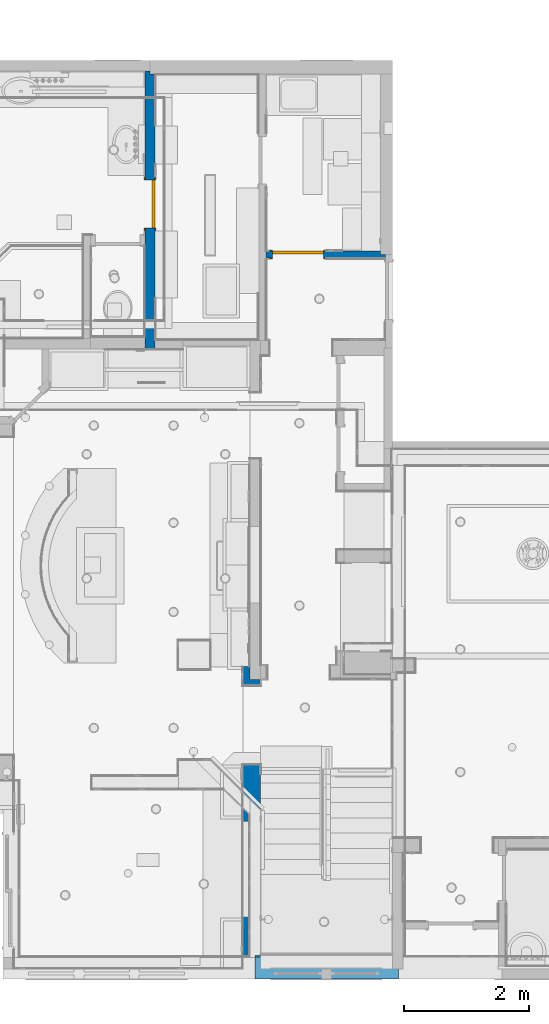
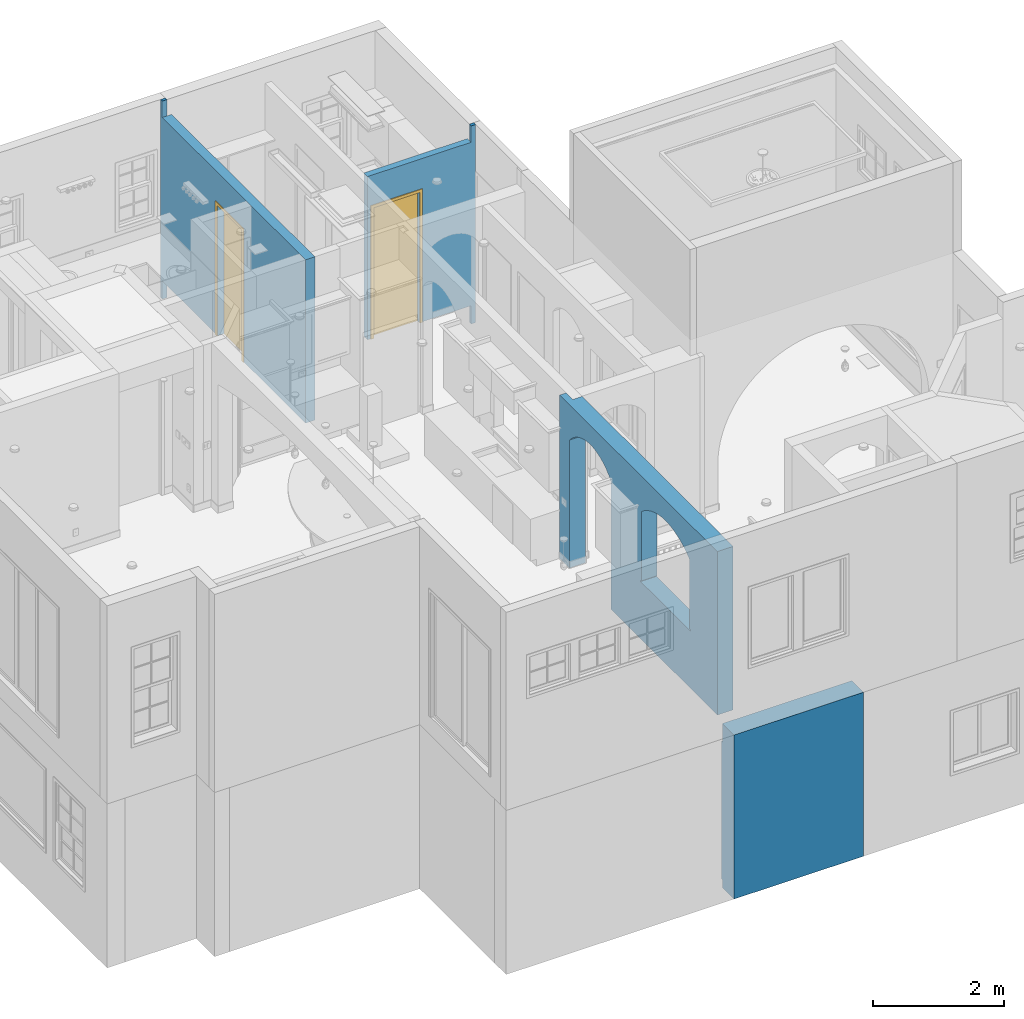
# One storey, part 30 of 81: 4 walls, 2 doors, 2 openings.
"""IFC2X3 building model written with IfcOpenShell, lengths in feet."""

from ifc_helpers import new_model, entity, si_unit, converted_unit, derived_unit, direction, frame, frame_2d, origin, origin_2d_with_axis, place, context, subcontext, project, spatial, polyline, rectangle, outline, extrude, faceted_brep, source, transform, mapped, material, material_list, layer, layer_set, type_object, type_shapes, element, fill, save


model = new_model("IFC2X3")

# Units and contexts
model_context = context("Model", 3, precision=0.0001, world=origin(), true_north=direction((6.12303176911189e-17, 1.0)))
body_context = subcontext(model_context, "Body", "Model", "MODEL_VIEW")
ifc_project = project(units=[converted_unit("LENGTHUNIT", "FOOT", entity("IfcRatioMeasure", 0.3048), si_unit("LENGTHUNIT", "METRE"), dimensions=[1, 0, 0, 0, 0, 0, 0]), converted_unit("AREAUNIT", "SQUARE FOOT", entity("IfcRatioMeasure", 0.09290304), si_unit("AREAUNIT", "SQUARE_METRE"), dimensions=[2, 0, 0, 0, 0, 0, 0]), converted_unit("VOLUMEUNIT", "CUBIC FOOT", entity("IfcRatioMeasure", 0.028316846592), si_unit("VOLUMEUNIT", "CUBIC_METRE"), dimensions=[3, 0, 0, 0, 0, 0, 0]), converted_unit("PLANEANGLEUNIT", "DEGREE", entity("IfcRatioMeasure", 0.0174532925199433), si_unit("PLANEANGLEUNIT", "RADIAN"), dimensions=[0, 0, 0, 0, 0, 0, 0]), si_unit("MASSUNIT", "GRAM", prefix="KILO"), derived_unit("MASSDENSITYUNIT", [(si_unit("MASSUNIT", "GRAM", prefix="KILO"), 1), (si_unit("LENGTHUNIT", "METRE"), -3)]), derived_unit("MOMENTOFINERTIAUNIT", [(si_unit("LENGTHUNIT", "METRE"), 4)]), si_unit("TIMEUNIT", "SECOND"), si_unit("FREQUENCYUNIT", "HERTZ"), si_unit("THERMODYNAMICTEMPERATUREUNIT", "DEGREE_CELSIUS"), derived_unit("THERMALTRANSMITTANCEUNIT", [(si_unit("MASSUNIT", "GRAM", prefix="KILO"), 1), (si_unit("THERMODYNAMICTEMPERATUREUNIT", "KELVIN"), -1), (si_unit("TIMEUNIT", "SECOND"), -3)]), derived_unit("VOLUMETRICFLOWRATEUNIT", [(si_unit("LENGTHUNIT", "METRE"), 3), (si_unit("TIMEUNIT", "SECOND"), -1)]), si_unit("ELECTRICCURRENTUNIT", "AMPERE"), si_unit("ELECTRICVOLTAGEUNIT", "VOLT"), si_unit("POWERUNIT", "WATT"), si_unit("FORCEUNIT", "NEWTON"), si_unit("ILLUMINANCEUNIT", "LUX"), si_unit("LUMINOUSFLUXUNIT", "LUMEN"), si_unit("LUMINOUSINTENSITYUNIT", "CANDELA"), derived_unit("USERDEFINED", [(si_unit("MASSUNIT", "GRAM", prefix="KILO"), -1), (si_unit("LENGTHUNIT", "METRE"), -2), (si_unit("TIMEUNIT", "SECOND"), 3), (si_unit("LUMINOUSFLUXUNIT", "LUMEN"), 1)]), derived_unit("LINEARVELOCITYUNIT", [(si_unit("LENGTHUNIT", "METRE"), 1), (si_unit("TIMEUNIT", "SECOND"), -1)]), si_unit("PRESSUREUNIT", "PASCAL"), derived_unit("USERDEFINED", [(si_unit("LENGTHUNIT", "METRE"), -2), (si_unit("MASSUNIT", "GRAM", prefix="KILO"), 1), (si_unit("TIMEUNIT", "SECOND"), -2)]), derived_unit("LINEARFORCEUNIT", [(si_unit("MASSUNIT", "GRAM", prefix="KILO"), 1), (si_unit("LENGTHUNIT", "METRE"), 1), (si_unit("TIMEUNIT", "SECOND"), -2), (si_unit("LENGTHUNIT", "METRE"), -1)]), derived_unit("PLANARFORCEUNIT", [(si_unit("MASSUNIT", "GRAM", prefix="KILO"), 1), (si_unit("LENGTHUNIT", "METRE"), 1), (si_unit("TIMEUNIT", "SECOND"), -2), (si_unit("LENGTHUNIT", "METRE"), -2)])], contexts=[model_context])

# Site, building, storey
site_placement = place(None, origin())
site = spatial("IfcSite", under=ifc_project, at=site_placement, Name="Default", CompositionType="ELEMENT")
building_placement = place(site_placement, origin())
building = spatial("IfcBuilding", under=site, at=building_placement, CompositionType="ELEMENT")
storey_placement = place(building_placement, origin())
storey = spatial("IfcBuildingStorey", under=building, at=storey_placement, Name="First floor", CompositionType="ELEMENT", Elevation=0.0)

# Wall, opening, door
ifc_material = material(Name="Default New Material")
ifc_layer_1 = layer(ifc_material, 0.541666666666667)
ifc_layer_set_1 = layer_set([ifc_layer_1], Name="Basic Wall:Wall_6.5\"")
wall_type_1 = type_object("IfcWallType", Name="Basic Wall:Wall_6.5\"", PredefinedType="STANDARD", material=ifc_layer_set_1)
wall_1_placement = place(storey_placement, frame((7.68749999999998, 32.9583333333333, 9.54166666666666), z_axis=(0.0, 0.0, 1.0), x_axis=(0.0, 1.0, 0.0)))
wall_1 = element("IfcWall", 1, at=wall_1_placement, inside=storey, type_object=wall_type_1, Name="Basic Wall:Wall_6.5\"", ObjectType="Basic Wall:Wall_6.5\"", context=body_context, shape_type="Brep", body=[
    faceted_brep([(6.3329881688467, -0.270833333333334, 1.125), (6.3329881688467, -0.270833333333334, 9.125), (8.8329881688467, -0.270833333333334, 9.125), (8.8329881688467, -0.270833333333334, 1.125), (14.3746548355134, -0.270833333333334, 1.125), (14.3746548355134, -0.270833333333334, 11.125), (0.458333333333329, -0.270833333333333, 11.125), (0.0, -0.270833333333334, 11.125), (0.0, -0.270833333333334, 1.125), (0.458333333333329, -0.270833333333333, 1.125), (6.3329881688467, 0.270833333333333, 9.125), (6.3329881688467, 0.270833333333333, 1.125), (5.95798816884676, 0.270833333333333, 1.125), (5.4163215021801, 0.270833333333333, 1.125), (0.625, 0.270833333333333, 1.125), (0.0, 0.270833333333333, 1.125), (0.0, 0.270833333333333, 11.125), (0.625, 0.270833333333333, 11.125), (5.4163215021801, 0.270833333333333, 11.125), (5.95798816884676, 0.270833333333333, 11.125), (14.3746548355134, 0.270833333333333, 11.125), (14.3746548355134, 0.270833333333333, 12.125), (14.54132150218, 0.270833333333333, 12.125), (14.54132150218, 0.270833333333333, 11.125), (14.54132150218, 0.270833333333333, 1.125), (14.54132150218, 0.270833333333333, 0.0), (14.3746548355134, 0.270833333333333, 0.0), (14.3746548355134, 0.270833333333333, 1.125), (8.8329881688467, 0.270833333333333, 1.125), (8.8329881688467, 0.270833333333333, 9.125), (14.54132150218, 0.0, 0.0), (14.3746548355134, 0.0, 0.0), (14.54132150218, 0.0, 12.125), (14.3746548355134, 0.0, 12.125), (14.3746548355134, 0.0, 11.125), (14.3746548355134, 0.0, 1.125)], [[[0, 1, 2, 3, 4, 5, 6, 7, 8, 9]], [[10, 11, 12, 13, 14, 15, 16, 17, 18, 19, 20, 21, 22, 23, 24, 25, 26, 27, 28, 29]], [[25, 30, 31, 26]], [[32, 22, 21, 33]], [[7, 16, 15, 8]], [[34, 5, 4, 35]], [[31, 30, 32, 33, 34, 35]], [[30, 25, 24, 23, 22, 32]], [[1, 0, 11, 10]], [[2, 1, 10, 29]], [[3, 2, 29, 28]], [[34, 20, 19, 18, 17, 16, 7, 6, 5]], [[20, 34, 33, 21]], [[27, 35, 4, 3, 28]], [[35, 27, 26, 31]], [[0, 9, 8, 15, 14, 13, 12, 11]]]),
])
opening_1_placement = place(wall_1_placement, frame((8.8329881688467, 0.270833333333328, 1.125)))
opening_1 = element("IfcOpeningElement", 2, at=opening_1_placement, cuts=wall_1, Name="Door_1:2'-6\" X 8'-0\":1", ObjectType="Opening", context=body_context, shape_type="SweptSolid", body=[
    extrude(rectangle(XDim=2.5, YDim=8.0, at=frame_2d((4.0, 1.25), x_axis=(0.0, 1.0))), frame((0.0, 0.0, 0.0), z_axis=(0.0, -1.0, 0.0), x_axis=(0.0, 0.0, 1.0)), (0.0, 0.0, 1.0), 0.541666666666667),
])
ifc_material_list_1 = material_list([ifc_material, ifc_material])
door_style_1 = type_object("IfcDoorStyle", Name="Door_1:2'-6\" X 8'-0\"", ConstructionType="NOTDEFINED", OperationType="SINGLE_SWING_RIGHT", ParameterTakesPrecedence=False, Sizeable=False, material=ifc_material_list_1)
shared_shape_1 = source(origin(), body_context, "Body", "SweptSolid", [
    extrude(outline(polyline([(-1.41666666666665, -4.125), (1.41666666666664, -4.125), (1.41666666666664, 4.04166666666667), (1.25000000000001, 4.04166666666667), (1.25000000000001, -3.95833333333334), (-1.24999999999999, -3.95833333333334), (-1.24999999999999, 4.04166666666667), (-1.41666666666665, 4.04166666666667), (-1.41666666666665, -4.125)])), frame((1.24999999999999, 0.541666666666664, 4.04166666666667), z_axis=(0.0, 1.0, 0.0), x_axis=(1.0, 0.0, 0.0)), (0.0, 0.0, 1.0), 0.0416666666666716),
    extrude(outline(polyline([(-4.125, -1.41666666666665), (4.04166666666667, -1.41666666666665), (4.04166666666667, -1.24999999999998), (-3.95833333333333, -1.24999999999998), (-3.95833333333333, 1.24999999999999), (4.04166666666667, 1.24999999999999), (4.04166666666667, 1.41666666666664), (-4.125, 1.41666666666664), (-4.125, -1.41666666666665)])), frame((1.24999999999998, -0.0416666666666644, 4.04166666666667), z_axis=(0.0, 1.0, 0.0), x_axis=(0.0, 0.0, -1.0)), (0.0, 0.0, 1.0), 0.0416666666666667),
    extrude(rectangle(XDim=0.166666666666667, YDim=2.5, at=origin_2d_with_axis()), frame((1.25, 0.458333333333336, 0.0), z_axis=(0.0, 0.0, 1.0), x_axis=(0.0, 1.0, 0.0)), (0.0, 0.0, 1.0), 8.0),
])
type_shapes(door_style_1, [shared_shape_1])
door_1_placement = place(opening_1_placement, frame((0.0, 0.0, 0.0), z_axis=(0.0, 0.0, 1.0), x_axis=(-1.0, 0.0, 0.0)))
door_1 = element("IfcDoor", 3, at=door_1_placement, inside=storey, type_object=door_style_1, material=ifc_material, Name="Door_1:2'-6\" X 8'-0\"", ObjectType="Door_1:2'-6\" X 8'-0\"", OverallHeight=8.0, OverallWidth=2.5, context=body_context, shape_type="MappedRepresentation", body=[
    mapped(shared_shape_1, transform((0.0, 0.0, 0.0), scale=1.0)),
])
fill(opening_1, door_1)

ifc_layer_2 = layer(ifc_material, 0.375)
ifc_layer_set_2 = layer_set([ifc_layer_2], Name="Basic Wall:Wall_4.5\"")
wall_type_2 = type_object("IfcWallType", Name="Basic Wall:Wall_4.5\"", PredefinedType="STANDARD", material=ifc_layer_set_2)
wall_2_placement = place(storey_placement, frame((20.0, 37.8954881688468, 9.54166666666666), z_axis=(0.0, 0.0, 1.0), x_axis=(-1.0, 0.0, 0.0)))
wall_2 = element("IfcWall", 4, at=wall_2_placement, inside=storey, type_object=wall_type_2, Name="Basic Wall:Wall_4.5\"", ObjectType="Basic Wall:Wall_4.5\"", context=body_context, shape_type="Brep", body=[
    faceted_brep([(5.91666666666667, -0.1875, 9.125), (5.91666666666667, -0.1875, 1.125), (6.20833333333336, -0.1875, 1.125), (6.25000000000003, -0.1875, 1.125), (6.25000000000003, -0.1875, 1.54166666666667), (6.25000000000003, -0.1875, 11.125), (0.250000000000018, -0.1875, 11.125), (0.250000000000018, -0.1875, 1.125), (3.25, -0.1875, 1.125), (3.25, -0.1875, 9.125), (5.91666666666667, 0.1875, 1.125), (5.91666666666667, 0.1875, 9.125), (3.25, 0.1875, 9.125), (3.25, 0.1875, 1.125), (0.250000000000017, 0.1875, 1.125), (0.250000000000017, 0.1875, 0.0), (0.0, 0.1875, 0.0), (0.0, 0.1875, 1.125), (0.0, 0.1875, 11.125), (0.0, 0.1875, 12.125), (0.250000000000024, 0.1875, 12.125), (0.250000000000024, 0.1875, 11.125), (6.25000000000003, 0.1875, 11.125), (6.25000000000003, 0.1875, 1.125), (0.250000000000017, 0.0, 0.0), (0.0, 0.0, 0.0), (0.0, 0.0, 12.125), (0.250000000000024, 0.0, 12.125), (0.250000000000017, 0.0, 11.125), (0.250000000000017, 0.0, 1.125)], [[[0, 1, 2, 3, 4, 5, 6, 7, 8, 9]], [[10, 11, 12, 13, 14, 15, 16, 17, 18, 19, 20, 21, 22, 23]], [[24, 25, 16, 15]], [[19, 26, 27, 20]], [[6, 28, 29, 7]], [[27, 26, 25, 24, 29, 28]], [[26, 19, 18, 17, 16, 25]], [[11, 10, 1, 0]], [[12, 11, 0, 9]], [[13, 12, 9, 8]], [[22, 5, 4, 3, 23]], [[21, 28, 6, 5, 22]], [[28, 21, 20, 27]], [[3, 2, 1, 10, 23]], [[14, 29, 24, 15]], [[29, 14, 13, 8, 7]]]),
])
opening_2_placement = place(wall_2_placement, frame((5.91666666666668, 0.187499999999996, 1.125)))
opening_2 = element("IfcOpeningElement", 5, at=opening_2_placement, cuts=wall_2, Name="Door_1:2'-8\" X 8'-0\":1", ObjectType="Opening", context=body_context, shape_type="SweptSolid", body=[
    extrude(rectangle(XDim=2.66666666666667, YDim=8.0, at=frame_2d((4.0, 1.33333333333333), x_axis=(0.0, -1.0))), frame((0.0, 0.0, 0.0), z_axis=(0.0, -1.0, 0.0), x_axis=(0.0, 0.0, 1.0)), (0.0, 0.0, 1.0), 0.375),
])
ifc_material_list_2 = material_list([ifc_material, ifc_material])
door_style_2 = type_object("IfcDoorStyle", Name="Door_1:2'-8\" X 8'-0\"", ConstructionType="NOTDEFINED", OperationType="SINGLE_SWING_LEFT", ParameterTakesPrecedence=False, Sizeable=False, material=ifc_material_list_2)
shared_shape_2 = source(origin(), body_context, "Body", "SweptSolid", [
    extrude(outline(polyline([(-1.49999999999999, -4.125), (1.49999999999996, -4.125), (1.50000000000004, 4.04166666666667), (1.33333333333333, 4.04166666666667), (1.33333333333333, -3.95833333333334), (-1.33333333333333, -3.95833333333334), (-1.33333333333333, 4.04166666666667), (-1.49999999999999, 4.04166666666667), (-1.49999999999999, -4.125)])), frame((1.33333333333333, 0.416666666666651, 4.04166666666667), z_axis=(0.0, -1.0, 0.0), x_axis=(-1.0, 0.0, 0.0)), (0.0, 0.0, 1.0), 0.0416666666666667),
    extrude(outline(polyline([(-4.125, -1.49999999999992), (4.04166666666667, -1.49999999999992), (4.04166666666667, -1.33333333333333), (-3.95833333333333, -1.33333333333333), (-3.95833333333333, 1.3333333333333), (4.04166666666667, 1.3333333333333), (4.04166666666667, 1.49999999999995), (-4.125, 1.49999999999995), (-4.125, -1.49999999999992)])), frame((1.33333333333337, 0.0, 4.04166666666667), z_axis=(0.0, -1.0, 0.0), x_axis=(0.0, 0.0, -1.0)), (0.0, 0.0, 1.0), 0.0416666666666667),
    extrude(rectangle(XDim=2.66666666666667, YDim=0.166666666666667, at=origin_2d_with_axis()), frame((1.33333333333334, 0.291666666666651, 0.0)), (0.0, 0.0, 1.0), 8.0),
])
type_shapes(door_style_2, [shared_shape_2])
door_2_placement = place(opening_2_placement, frame((0.0, 0.0, 0.0), z_axis=(0.0, 0.0, 1.0), x_axis=(-1.0, 0.0, 0.0)))
door_2 = element("IfcDoor", 6, at=door_2_placement, inside=storey, type_object=door_style_2, material=ifc_material, Name="Door_1:2'-8\" X 8'-0\"", ObjectType="Door_1:2'-8\" X 8'-0\"", OverallHeight=8.0, OverallWidth=2.66666666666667, context=body_context, shape_type="MappedRepresentation", body=[
    mapped(shared_shape_2, transform((0.0, 0.0, 0.0), scale=1.0)),
])
fill(opening_2, door_2)

# Walls
ifc_layer_3 = layer(ifc_material, 0.916666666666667)
ifc_layer_set_3 = layer_set([ifc_layer_3], Name="Basic Wall:Wall_11\"")
wall_type_3 = type_object("IfcWallType", Name="Basic Wall:Wall_11\"", PredefinedType="STANDARD", material=ifc_layer_set_3)
wall_3_placement = place(storey_placement, frame((13.0, 16.3538215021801, 10.6666666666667), z_axis=(0.0, 0.0, 1.0), x_axis=(0.0, -1.0, 0.0)))
element("IfcWall", 7, at=wall_3_placement, inside=storey, type_object=wall_type_3, Name="Basic Wall:Wall_11\"", ObjectType="Basic Wall:Wall_11\"", context=body_context, shape_type="Brep", body=[
    faceted_brep([(8.18715483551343, -0.458333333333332, 3.58333333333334), (8.1038215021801, -0.458333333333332, 3.58333333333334), (8.10382150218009, 0.458333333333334, 3.58333333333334), (8.18715483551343, 0.458333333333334, 3.58333333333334), (13.0204881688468, -0.458333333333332, 3.58333333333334), (13.0204881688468, 0.458333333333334, 3.58333333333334), (13.1038215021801, 0.458333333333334, 3.58333333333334), (13.1038215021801, -0.458333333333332, 3.58333333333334), (15.8121548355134, -0.458333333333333, 0.0), (5.14583333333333, -0.458333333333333, 0.0), (5.14583333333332, 0.458333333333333, 0.0), (15.8121548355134, 0.458333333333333, 0.0), (0.666321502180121, -0.0833333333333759, 0.0), (0.666321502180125, 0.458333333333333, 0.0), (0.979166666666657, 0.458333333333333, 0.0), (0.979166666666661, -0.458333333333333, 0.0), (0.0, -0.458333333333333, 0.0), (0.0, -0.0833333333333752, 0.0), (0.979166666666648, -0.458333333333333, 7.83333333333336), (0.0, -0.458333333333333, 10.0), (1.19282357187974, -0.458333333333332, 8.06948711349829), (1.43307629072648, -0.458333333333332, 8.27852422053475), (1.69650727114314, -0.458333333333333, 8.45747113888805), (1.97936925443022, -0.458333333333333, 8.60378238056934), (2.27763857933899, -0.458333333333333, 8.71537669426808), (2.58707241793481, -0.458333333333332, 8.79066667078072), (2.90326912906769, -0.458333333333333, 8.82858132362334), (3.22173087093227, -0.458333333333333, 8.82858132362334), (3.53792758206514, -0.458333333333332, 8.79066667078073), (9.85430173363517, -0.458333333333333, 8.67208281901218), (3.84736142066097, -0.458333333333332, 8.71537669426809), (9.4895963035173, -0.458333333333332, 8.57546927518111), (4.14563074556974, -0.458333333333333, 8.60378238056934), (9.1368354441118, -0.458333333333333, 8.44166343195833), (4.42849272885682, -0.458333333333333, 8.45747113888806), (8.79980077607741, -0.458333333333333, 8.27209969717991), (4.69192370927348, -0.458333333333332, 8.27852422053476), (8.48210533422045, -0.458333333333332, 8.0685958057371), (4.93217642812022, -0.458333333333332, 8.0694871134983), (8.18715483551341, -0.458333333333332, 7.83333333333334), (5.14583333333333, -0.458333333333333, 7.83333333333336), (8.1038215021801, -0.458333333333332, 3.5), (8.18715483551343, -0.458333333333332, 3.5), (13.0204881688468, -0.458333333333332, 3.5), (13.1038215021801, -0.458333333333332, 3.5), (15.8121548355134, -0.458333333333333, 10.0), (13.0204881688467, -0.458333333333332, 7.83333333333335), (12.7255376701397, -0.458333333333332, 8.06859580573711), (10.2270420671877, -0.458333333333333, 8.73046835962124), (10.6038215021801, -0.458333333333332, 8.75000000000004), (10.9806009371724, -0.458333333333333, 8.73046835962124), (11.353341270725, -0.458333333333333, 8.67208281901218), (11.7180467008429, -0.458333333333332, 8.57546927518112), (12.0708075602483, -0.458333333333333, 8.44166343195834), (12.4078422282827, -0.458333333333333, 8.27209969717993), (13.1038215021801, 0.458333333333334, 3.5), (15.8121548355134, 0.458333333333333, 10.0), (8.10382150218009, 0.458333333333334, 3.5), (5.14583333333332, 0.458333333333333, 7.83333333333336), (8.18715483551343, 0.458333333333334, 7.83333333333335), (4.93217642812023, 0.458333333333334, 8.06948711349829), (8.48210533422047, 0.458333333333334, 8.06859580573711), (4.69192370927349, 0.458333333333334, 8.27852422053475), (8.79980077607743, 0.458333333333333, 8.27209969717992), (4.42849272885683, 0.458333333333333, 8.45747113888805), (9.13683544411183, 0.458333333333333, 8.44166343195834), (4.14563074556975, 0.458333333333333, 8.60378238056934), (9.48959630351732, 0.458333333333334, 8.57546927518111), (3.84736142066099, 0.458333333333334, 8.71537669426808), (9.85430173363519, 0.458333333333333, 8.67208281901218), (0.666321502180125, 0.458333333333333, 10.0), (3.53792758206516, 0.458333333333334, 8.79066667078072), (3.22173087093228, 0.458333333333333, 8.82858132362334), (2.9032691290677, 0.458333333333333, 8.82858132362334), (2.58707241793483, 0.458333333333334, 8.79066667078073), (2.277638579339, 0.458333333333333, 8.71537669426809), (1.97936925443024, 0.458333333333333, 8.60378238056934), (1.69650727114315, 0.458333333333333, 8.45747113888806), (1.4330762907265, 0.458333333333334, 8.27852422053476), (1.19282357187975, 0.458333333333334, 8.0694871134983), (0.979166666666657, 0.458333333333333, 7.83333333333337), (10.2270420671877, 0.458333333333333, 8.73046835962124), (13.0204881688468, 0.458333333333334, 7.83333333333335), (12.7255376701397, 0.458333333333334, 8.0685958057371), (12.4078422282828, 0.458333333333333, 8.27209969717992), (12.0708075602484, 0.458333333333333, 8.44166343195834), (11.7180467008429, 0.458333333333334, 8.57546927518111), (11.353341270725, 0.458333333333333, 8.67208281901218), (10.9806009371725, 0.458333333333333, 8.73046835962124), (10.6038215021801, 0.458333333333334, 8.75000000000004), (0.0, -0.0833333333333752, 10.0), (0.666321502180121, -0.0833333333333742, 10.0)], [[[0, 1, 2, 3]], [[4, 5, 6, 7]], [[8, 9, 10, 11]], [[12, 13, 14, 15, 16, 17]], [[16, 15, 18]], [[16, 18, 19]], [[18, 20, 19]], [[20, 21, 19]], [[22, 19, 21]], [[22, 23, 19]], [[24, 19, 23]], [[19, 24, 25]], [[19, 25, 26]], [[26, 27, 19]], [[27, 28, 19]], [[28, 29, 19]], [[29, 28, 30]], [[31, 29, 30]], [[30, 32, 31]], [[33, 31, 32]], [[32, 34, 33]], [[35, 33, 34]], [[36, 35, 34]], [[37, 35, 36]], [[36, 38, 37]], [[39, 37, 38]], [[38, 40, 39]], [[1, 39, 40]], [[9, 1, 40]], [[9, 41, 1]], [[41, 9, 42]], [[42, 9, 8]], [[8, 43, 42]], [[43, 8, 44]], [[44, 8, 7]], [[7, 8, 45]], [[45, 46, 7]], [[47, 46, 45]], [[48, 45, 19]], [[48, 49, 45]], [[50, 45, 49]], [[50, 51, 45]], [[45, 51, 52]], [[52, 53, 45]], [[53, 54, 45]], [[54, 47, 45]], [[4, 7, 46]], [[0, 39, 1]], [[48, 19, 29]], [[11, 55, 6]], [[11, 6, 56]], [[55, 11, 57]], [[10, 57, 11]], [[57, 10, 2]], [[10, 58, 2]], [[2, 58, 59]], [[58, 60, 59]], [[59, 60, 61]], [[60, 62, 61]], [[63, 61, 62]], [[62, 64, 63]], [[63, 64, 65]], [[64, 66, 65]], [[67, 65, 66]], [[68, 67, 66]], [[69, 67, 68]], [[68, 70, 69]], [[68, 71, 70]], [[71, 72, 70]], [[73, 70, 72]], [[73, 74, 70]], [[70, 74, 75]], [[75, 76, 70]], [[76, 77, 70]], [[77, 78, 70]], [[78, 79, 70]], [[80, 70, 79]], [[80, 13, 70]], [[80, 14, 13]], [[81, 70, 56]], [[70, 81, 69]], [[59, 3, 2]], [[56, 6, 82]], [[6, 5, 82]], [[82, 83, 56]], [[84, 56, 83]], [[84, 85, 56]], [[86, 56, 85]], [[56, 86, 87]], [[56, 87, 88]], [[88, 89, 56]], [[89, 81, 56]], [[90, 19, 45, 56, 70, 91]], [[16, 19, 90, 17]], [[8, 11, 56, 45]], [[5, 4, 46, 82]], [[59, 39, 0, 3]], [[55, 57, 41, 42, 43, 44]], [[84, 83, 47, 54]], [[83, 82, 46, 47]], [[87, 86, 52, 51]], [[86, 85, 53, 52]], [[53, 85, 84, 54]], [[87, 51, 50, 88]], [[50, 49, 89, 88]], [[69, 81, 48, 29]], [[69, 29, 31, 67]], [[37, 61, 63, 35]], [[63, 65, 33, 35]], [[65, 67, 31, 33]], [[59, 61, 37, 39]], [[49, 48, 81, 89]], [[80, 18, 15, 14]], [[10, 9, 40, 58]], [[40, 38, 60, 58]], [[36, 34, 64, 62]], [[36, 62, 60, 38]], [[71, 68, 30, 28]], [[68, 66, 32, 30]], [[64, 34, 32, 66]], [[71, 28, 27, 72]], [[27, 26, 73, 72]], [[75, 74, 25, 24]], [[74, 73, 26, 25]], [[76, 75, 24, 23]], [[20, 79, 78, 21]], [[78, 77, 22, 21]], [[77, 76, 23, 22]], [[80, 79, 20, 18]], [[12, 17, 90, 91]], [[13, 12, 91, 70]], [[57, 2, 1, 41]], [[55, 44, 7, 6]]]),
])
ifc_layer_4 = layer(ifc_material, 1.25)
ifc_layer_set_4 = layer_set([ifc_layer_4], Name="Basic Wall:Wall_1'3\"")
wall_type_4 = type_object("IfcWallType", Name="Basic Wall:Wall_1'3\"", PredefinedType="STANDARD", material=ifc_layer_set_4)
wall_4_placement = place(storey_placement, frame((21.0, 0.624999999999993, -0.5), z_axis=(0.0, 0.0, 1.0), x_axis=(-1.0, 0.0, 0.0)))
element("IfcWall", 8, at=wall_4_placement, inside=storey, type_object=wall_type_4, Name="Basic Wall:Wall_1'3\"", ObjectType="Basic Wall:Wall_1'3\"", context=body_context, shape_type="Brep", body=[
    faceted_brep([(7.81250108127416, -0.625, 8.91666666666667), (7.54166666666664, -0.625, 8.91666666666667), (0.624999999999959, -0.625, 8.91666666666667), (0.0, -0.625, 8.91666666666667), (0.0, -0.625, 0.5), (0.624999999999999, -0.625, 0.5), (7.54166774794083, -0.625, 0.5), (7.81250108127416, -0.625, 0.5), (7.81250108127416, 0.625, 10.0416666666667), (7.81250108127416, 0.625, 0.0), (0.312499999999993, 0.625, 0.0), (0.312499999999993, 0.625, 10.0416666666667), (7.81250108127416, -0.520833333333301, 0.0), (7.81250108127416, -0.541666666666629, 0.0), (0.312499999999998, -0.541666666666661, 0.0), (0.312499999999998, -0.541666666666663, 10.0416666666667), (1.83361827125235, -0.541666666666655, 10.0416666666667), (7.81250108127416, -0.541666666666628, 10.0416666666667), (7.81250108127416, -0.520833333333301, 10.0416666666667), (0.0, -0.541666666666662, 8.91666666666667), (0.0, -0.541666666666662, 0.916666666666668), (0.0, -0.541666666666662, 0.5), (0.0, -0.583333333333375, 0.5), (7.81250108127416, -0.541666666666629, 8.91666666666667), (7.81250108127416, -0.541666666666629, 0.5), (0.312499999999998, -0.541666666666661, 8.91666666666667), (0.312499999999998, -0.541666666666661, 0.5), (1.83361827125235, -0.541666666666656, 8.91666666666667)], [[[0, 1, 2, 3, 4, 5, 6, 7]], [[8, 9, 10, 11]], [[10, 9, 12, 13, 14]], [[8, 11, 15, 16, 17, 18]], [[3, 19, 20, 21, 22, 4]], [[9, 8, 18, 17, 23, 0, 7, 24, 13, 12]], [[19, 25, 26, 21, 20]], [[11, 10, 14, 26, 25, 15]], [[27, 25, 19, 3, 2, 1, 0, 23]], [[16, 27, 23, 17]], [[27, 16, 15, 25]], [[26, 24, 7, 6, 5, 4, 22, 21]], [[24, 26, 14, 13]]]),
])

save(model, "model.ifc")
